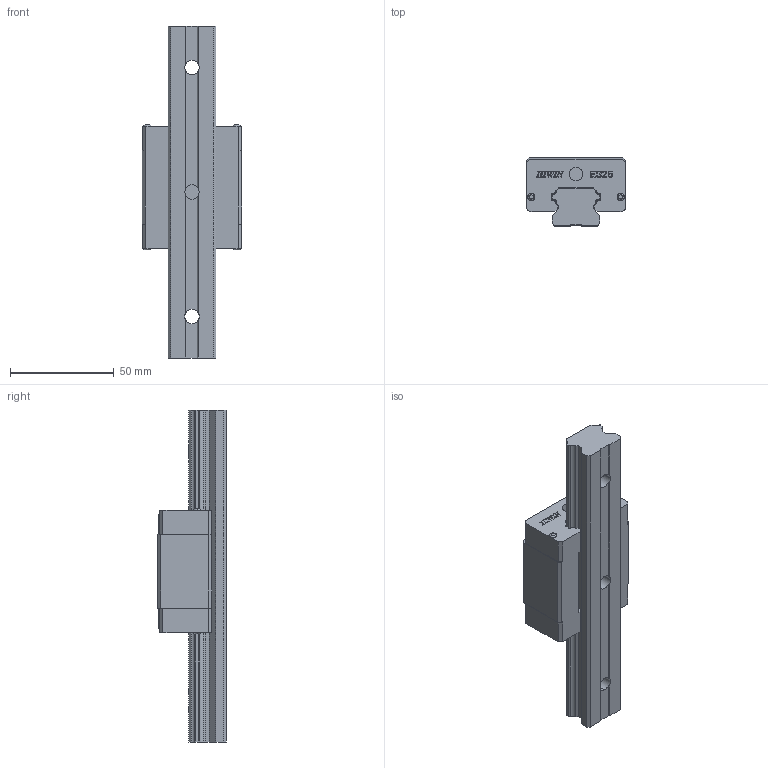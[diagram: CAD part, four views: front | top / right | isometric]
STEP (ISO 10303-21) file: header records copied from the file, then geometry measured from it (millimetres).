
FILE_DESCRIPTION((''),'2;1');
FILE_NAME('EGH25SA_ASM_ASM','2006-08-23T',('sheng'),(''),'PRO/ENGINEER BY PARAMETRIC TECHNOLOGY CORPORATION, 2004360','PRO/ENGINEER BY PARAMETRIC TECHNOLOGY CORPORATION, 2004360','');
FILE_SCHEMA(('CONFIG_CONTROL_DESIGN'));
Length unit declared in the file: millimetre
Products named in the file (3): EG25_RAIL; EGH25SA_BLOCK; EGH25SA_ASM_ASM
Assembly tree (2 placements, depth 2):
  EGH25SA_ASM_ASM
    EG25_RAIL
    EGH25SA_BLOCK
Bounding box: 48 x 33 x 160 mm (x, y, z)
Volume: 107026 mm3; surface area: 28848.2 mm2
Topology: 2 solids, 2 shells, 434 faces, 1268 edges, 855 vertices
Faces by surface type: plane 318, extrusion 60, cylinder 48, torus 8
Entity records: 14671 total; most frequent: CARTESIAN_POINT 3143, ORIENTED_EDGE 2536, DIRECTION 2099, EDGE_CURVE 1268, VECTOR 1051, LINE 991, VERTEX_POINT 855, AXIS2_PLACEMENT_3D 524
